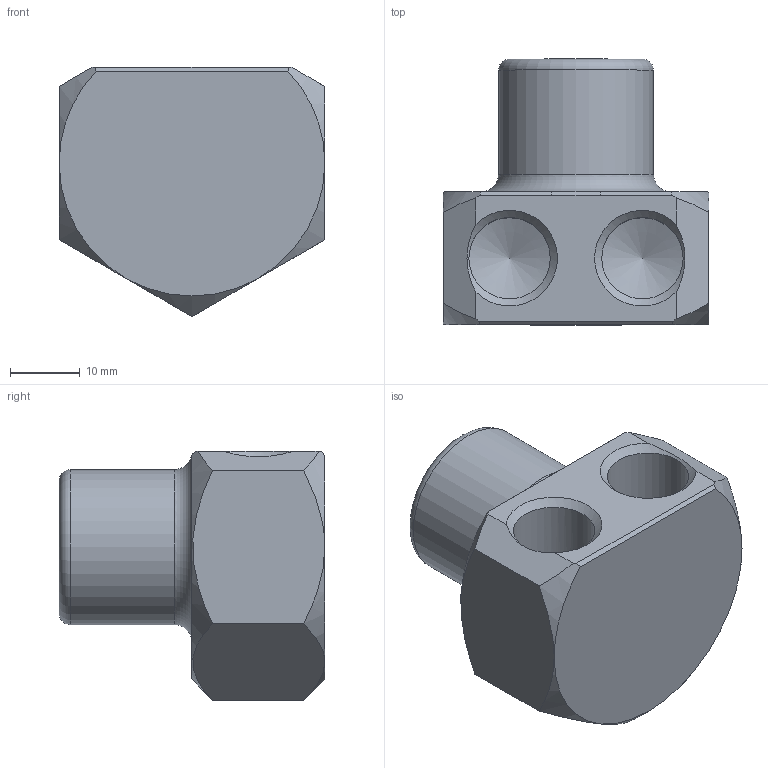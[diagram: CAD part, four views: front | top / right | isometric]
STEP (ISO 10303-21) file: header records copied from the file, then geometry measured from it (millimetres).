
FILE_DESCRIPTION(/* description */ (''),/* implementation_level */ '2;1');
FILE_NAME(/* name */ 'C:/Users/drich/Desktop/ET1414H .step',/* time_stamp */ '2019-11-18T13:37:08-06:00',/* author */ (''),/* organization */ (''),/* preprocessor_version */ 'ST-DEVELOPER v18',/* originating_system */ 'Autodesk Translation Framework v8.12.0.6',/* authorisation */ '');
FILE_SCHEMA (('AUTOMOTIVE_DESIGN { 1 0 10303 214 3 1 1 }'));
Length unit declared in the file: inch
Products named in the file (3): ET1414H; ET1414H_1; ET1414 INSERT
Assembly tree (2 placements, depth 2):
  ET1414H
    ET1414H_1
    ET1414 INSERT
Bounding box: 38.1 x 38.1 x 35.71 mm (x, y, z)
Volume: 21516.3 mm3; surface area: 9317.3 mm2
Topology: 2 solids, 2 shells, 84 faces, 229 edges, 147 vertices
Faces by surface type: cylinder 38, plane 20, cone 17, torus 6, bspline 3
Full cylindrical faces by diameter (mm): 5.969 x1, 6.909 x7, 7.938 x6, 11.062 x1, 11.668 x3, 22.225 x1
Entity records: 3988 total; most frequent: CARTESIAN_POINT 1901, ORIENTED_EDGE 452, DIRECTION 392, EDGE_CURVE 226, AXIS2_PLACEMENT_3D 166, VERTEX_POINT 147, EDGE_LOOP 93, FACE_OUTER_BOUND 84
